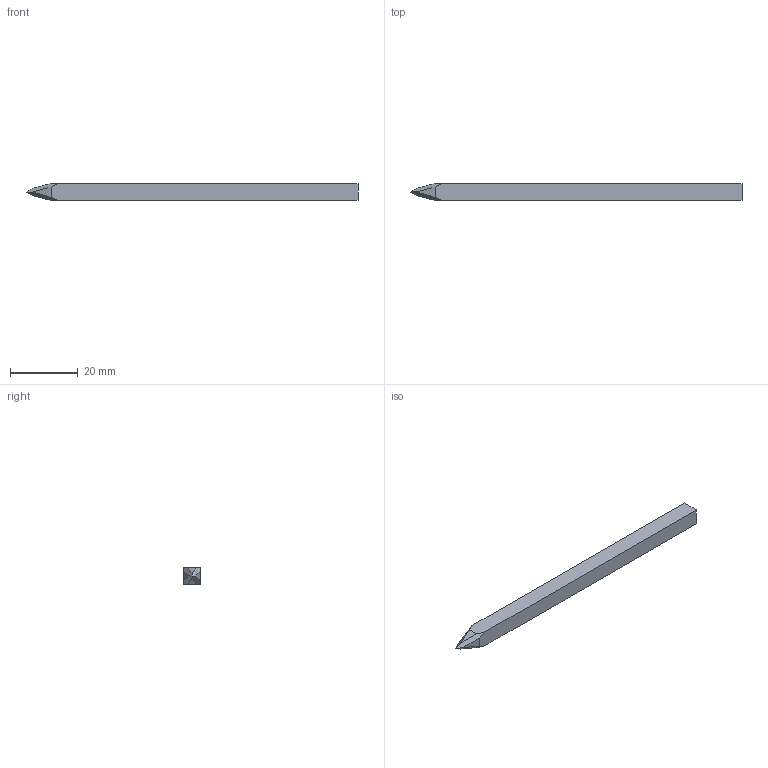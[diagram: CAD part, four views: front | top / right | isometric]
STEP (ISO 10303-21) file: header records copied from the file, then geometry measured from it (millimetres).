
FILE_DESCRIPTION(/* description */ (''),/* implementation_level */ '2;1');
FILE_NAME(/* name */ 'D:\IN 制图\设备\手动剥线机带侧刀4.02\工程图\5X5剥刀杆.stp',/* time_stamp */ '2026-06-21T18:21:44+08:00',/* author */ ('ROG'),/* organization */ (''),/* preprocessor_version */ 'ST-DEVELOPER v19',/* originating_system */ 'Autodesk Inventor 2023',/* authorisation */ '');
FILE_SCHEMA (('AUTOMOTIVE_DESIGN { 1 0 10303 214 3 1 1 }'));
Length unit declared in the file: millimetre
Products named in the file (1): 5X5剥刀杆
Bounding box: 98.07 x 5 x 5 mm (x, y, z)
Volume: 2327.3 mm3; surface area: 1910 mm2
Topology: 1 solids, 1 shells, 13 faces, 32 edges, 21 vertices
Faces by surface type: plane 13
Entity records: 461 total; most frequent: CARTESIAN_POINT 67, ORIENTED_EDGE 64, DIRECTION 60, LINE 32, VECTOR 32, EDGE_CURVE 32, VERTEX_POINT 21, STYLED_ITEM 14
